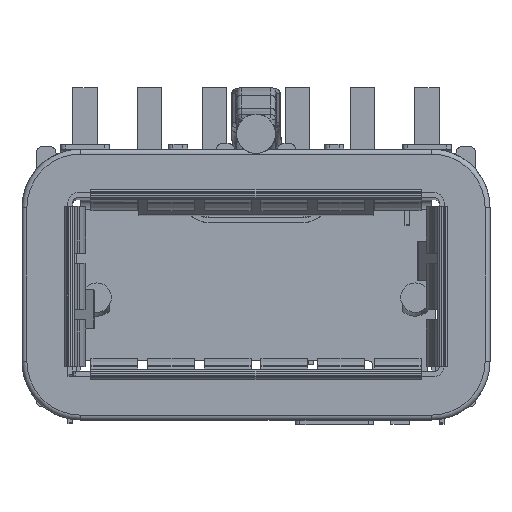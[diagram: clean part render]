
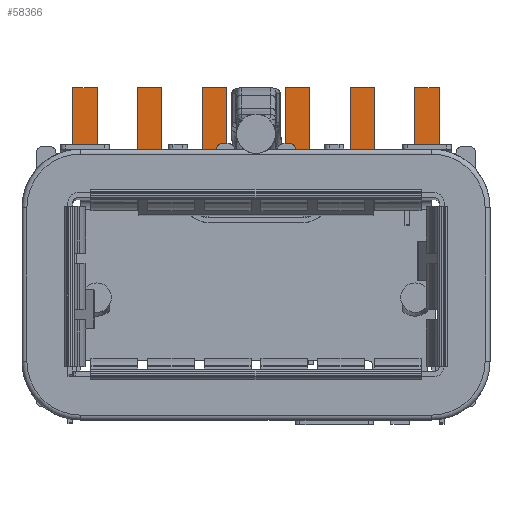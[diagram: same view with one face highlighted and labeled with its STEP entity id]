
A CAD part, top view. The second image highlights one B-rep face of the part: STEP entity #58366.
In plain terms, the highlighted planar face has unit normal (0, 0, 1).
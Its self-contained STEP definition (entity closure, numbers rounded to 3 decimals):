
#11865=DIRECTION('',(0.,-1.,0.));
#11866=VECTOR('',#11865,3.9);
#11867=CARTESIAN_POINT('',(-9.375,10.1,-9.545));
#11868=LINE('',#11867,#11866);
#11893=DIRECTION('',(0.,-1.,0.));
#11894=VECTOR('',#11893,3.9);
#11895=CARTESIAN_POINT('',(9.375,10.1,-9.545));
#11896=LINE('',#11895,#11894);
#12169=DIRECTION('',(1.,0.,0.));
#12170=VECTOR('',#12169,18.75);
#12171=CARTESIAN_POINT('',(-9.375,6.2,-9.545));
#12172=LINE('',#12171,#12170);
#12173=DIRECTION('',(0.,-1.,0.));
#12174=VECTOR('',#12173,3.6);
#12175=CARTESIAN_POINT('',(-8.125,10.1,-9.545));
#12176=LINE('',#12175,#12174);
#12177=DIRECTION('',(1.,0.,0.));
#12178=VECTOR('',#12177,2.063);
#12179=CARTESIAN_POINT('',(-8.125,6.5,-9.545));
#12180=LINE('',#12179,#12178);
#12181=DIRECTION('',(0.,-1.,0.));
#12182=VECTOR('',#12181,3.6);
#12183=CARTESIAN_POINT('',(-6.063,10.1,-9.545));
#12184=LINE('',#12183,#12182);
#12185=DIRECTION('',(1.,0.,0.));
#12186=VECTOR('',#12185,1.25);
#12187=CARTESIAN_POINT('',(-6.063,10.1,-9.545));
#12188=LINE('',#12187,#12186);
#12189=DIRECTION('',(0.,-1.,0.));
#12190=VECTOR('',#12189,3.6);
#12191=CARTESIAN_POINT('',(-4.813,10.1,-9.545));
#12192=LINE('',#12191,#12190);
#12193=DIRECTION('',(1.,0.,0.));
#12194=VECTOR('',#12193,2.063);
#12195=CARTESIAN_POINT('',(-4.813,6.5,-9.545));
#12196=LINE('',#12195,#12194);
#12197=DIRECTION('',(0.,-1.,0.));
#12198=VECTOR('',#12197,3.6);
#12199=CARTESIAN_POINT('',(-2.75,10.1,-9.545));
#12200=LINE('',#12199,#12198);
#12201=DIRECTION('',(1.,0.,0.));
#12202=VECTOR('',#12201,1.25);
#12203=CARTESIAN_POINT('',(-2.75,10.1,-9.545));
#12204=LINE('',#12203,#12202);
#12205=DIRECTION('',(0.,-1.,0.));
#12206=VECTOR('',#12205,3.6);
#12207=CARTESIAN_POINT('',(-1.5,10.1,-9.545));
#12208=LINE('',#12207,#12206);
#12209=DIRECTION('',(1.,0.,0.));
#12210=VECTOR('',#12209,3.);
#12211=CARTESIAN_POINT('',(-1.5,6.5,-9.545));
#12212=LINE('',#12211,#12210);
#12213=DIRECTION('',(0.,-1.,0.));
#12214=VECTOR('',#12213,3.6);
#12215=CARTESIAN_POINT('',(1.5,10.1,-9.545));
#12216=LINE('',#12215,#12214);
#12217=DIRECTION('',(1.,0.,0.));
#12218=VECTOR('',#12217,1.25);
#12219=CARTESIAN_POINT('',(1.5,10.1,-9.545));
#12220=LINE('',#12219,#12218);
#12221=DIRECTION('',(0.,-1.,0.));
#12222=VECTOR('',#12221,3.6);
#12223=CARTESIAN_POINT('',(2.75,10.1,-9.545));
#12224=LINE('',#12223,#12222);
#12225=DIRECTION('',(1.,0.,0.));
#12226=VECTOR('',#12225,2.063);
#12227=CARTESIAN_POINT('',(2.75,6.5,-9.545));
#12228=LINE('',#12227,#12226);
#12229=DIRECTION('',(0.,-1.,0.));
#12230=VECTOR('',#12229,3.6);
#12231=CARTESIAN_POINT('',(4.813,10.1,-9.545));
#12232=LINE('',#12231,#12230);
#12233=DIRECTION('',(1.,0.,0.));
#12234=VECTOR('',#12233,1.25);
#12235=CARTESIAN_POINT('',(4.813,10.1,-9.545));
#12236=LINE('',#12235,#12234);
#12237=DIRECTION('',(0.,-1.,0.));
#12238=VECTOR('',#12237,3.6);
#12239=CARTESIAN_POINT('',(6.063,10.1,-9.545));
#12240=LINE('',#12239,#12238);
#12241=DIRECTION('',(1.,0.,0.));
#12242=VECTOR('',#12241,2.063);
#12243=CARTESIAN_POINT('',(6.063,6.5,-9.545));
#12244=LINE('',#12243,#12242);
#12245=DIRECTION('',(0.,-1.,0.));
#12246=VECTOR('',#12245,3.6);
#12247=CARTESIAN_POINT('',(8.125,10.1,-9.545));
#12248=LINE('',#12247,#12246);
#12249=DIRECTION('',(1.,0.,0.));
#12250=VECTOR('',#12249,1.25);
#12251=CARTESIAN_POINT('',(8.125,10.1,-9.545));
#12252=LINE('',#12251,#12250);
#12253=DIRECTION('',(1.,0.,0.));
#12254=VECTOR('',#12253,1.25);
#12255=CARTESIAN_POINT('',(-9.375,10.1,-9.545));
#12256=LINE('',#12255,#12254);
#37461=CARTESIAN_POINT('',(-9.375,10.1,-9.545));
#37462=VERTEX_POINT('',#37461);
#37463=CARTESIAN_POINT('',(-9.375,6.2,-9.545));
#37464=VERTEX_POINT('',#37463);
#37605=CARTESIAN_POINT('',(9.375,10.1,-9.545));
#37606=VERTEX_POINT('',#37605);
#37607=CARTESIAN_POINT('',(9.375,6.2,-9.545));
#37608=VERTEX_POINT('',#37607);
#42024=CARTESIAN_POINT('',(-8.125,10.1,-9.545));
#42025=VERTEX_POINT('',#42024);
#42026=CARTESIAN_POINT('',(-6.063,10.1,-9.545));
#42027=VERTEX_POINT('',#42026);
#42028=CARTESIAN_POINT('',(-8.125,6.5,-9.545));
#42029=VERTEX_POINT('',#42028);
#42030=CARTESIAN_POINT('',(-6.063,6.5,-9.545));
#42031=VERTEX_POINT('',#42030);
#42090=CARTESIAN_POINT('',(-4.813,10.1,-9.545));
#42091=VERTEX_POINT('',#42090);
#42930=CARTESIAN_POINT('',(-2.75,10.1,-9.545));
#42931=VERTEX_POINT('',#42930);
#42932=CARTESIAN_POINT('',(1.5,10.1,-9.545));
#42933=VERTEX_POINT('',#42932);
#42934=CARTESIAN_POINT('',(-1.5,10.1,-9.545));
#42935=VERTEX_POINT('',#42934);
#42936=CARTESIAN_POINT('',(6.063,10.1,-9.545));
#42937=VERTEX_POINT('',#42936);
#42938=CARTESIAN_POINT('',(8.125,10.1,-9.545));
#42939=VERTEX_POINT('',#42938);
#42940=CARTESIAN_POINT('',(2.75,10.1,-9.545));
#42941=VERTEX_POINT('',#42940);
#42942=CARTESIAN_POINT('',(4.813,10.1,-9.545));
#42943=VERTEX_POINT('',#42942);
#42944=CARTESIAN_POINT('',(-4.813,6.5,-9.545));
#42945=VERTEX_POINT('',#42944);
#42946=CARTESIAN_POINT('',(-2.75,6.5,-9.545));
#42947=VERTEX_POINT('',#42946);
#42948=CARTESIAN_POINT('',(1.5,6.5,-9.545));
#42949=VERTEX_POINT('',#42948);
#42950=CARTESIAN_POINT('',(-1.5,6.5,-9.545));
#42951=VERTEX_POINT('',#42950);
#42952=CARTESIAN_POINT('',(6.063,6.5,-9.545));
#42953=VERTEX_POINT('',#42952);
#42954=CARTESIAN_POINT('',(8.125,6.5,-9.545));
#42955=VERTEX_POINT('',#42954);
#42956=CARTESIAN_POINT('',(2.75,6.5,-9.545));
#42957=VERTEX_POINT('',#42956);
#42958=CARTESIAN_POINT('',(4.813,6.5,-9.545));
#42959=VERTEX_POINT('',#42958);
#58314=CARTESIAN_POINT('',(-9.375,10.1,-9.545));
#58315=DIRECTION('',(0.,0.,1.));
#58316=DIRECTION('',(0.,-1.,0.));
#58317=AXIS2_PLACEMENT_3D('',#58314,#58315,#58316);
#58318=PLANE('',#58317);
#58320=ORIENTED_EDGE('',*,*,#58319,.T.);
#58322=ORIENTED_EDGE('',*,*,#58321,.T.);
#58324=ORIENTED_EDGE('',*,*,#58323,.F.);
#58326=ORIENTED_EDGE('',*,*,#58325,.T.);
#58328=ORIENTED_EDGE('',*,*,#58327,.T.);
#58330=ORIENTED_EDGE('',*,*,#58329,.T.);
#58332=ORIENTED_EDGE('',*,*,#58331,.F.);
#58334=ORIENTED_EDGE('',*,*,#58333,.T.);
#58336=ORIENTED_EDGE('',*,*,#58335,.T.);
#58338=ORIENTED_EDGE('',*,*,#58337,.T.);
#58340=ORIENTED_EDGE('',*,*,#58339,.F.);
#58342=ORIENTED_EDGE('',*,*,#58341,.T.);
#58344=ORIENTED_EDGE('',*,*,#58343,.T.);
#58346=ORIENTED_EDGE('',*,*,#58345,.T.);
#58348=ORIENTED_EDGE('',*,*,#58347,.F.);
#58350=ORIENTED_EDGE('',*,*,#58349,.T.);
#58352=ORIENTED_EDGE('',*,*,#58351,.T.);
#58354=ORIENTED_EDGE('',*,*,#58353,.T.);
#58356=ORIENTED_EDGE('',*,*,#58355,.F.);
#58358=ORIENTED_EDGE('',*,*,#58357,.T.);
#58359=ORIENTED_EDGE('',*,*,#58161,.T.);
#58360=ORIENTED_EDGE('',*,*,#58307,.F.);
#58361=ORIENTED_EDGE('',*,*,#58130,.F.);
#58363=ORIENTED_EDGE('',*,*,#58362,.T.);
#58364=EDGE_LOOP('',(#58320,#58322,#58324,#58326,#58328,#58330,#58332,#58334,
#58336,#58338,#58340,#58342,#58344,#58346,#58348,#58350,#58352,#58354,#58356,
#58358,#58359,#58360,#58361,#58363));
#58365=FACE_OUTER_BOUND('',#58364,.F.);
#58130=EDGE_CURVE('',#37462,#37464,#11868,.T.);
#58161=EDGE_CURVE('',#37606,#37608,#11896,.T.);
#58307=EDGE_CURVE('',#37464,#37608,#12172,.T.);
#58319=EDGE_CURVE('',#42025,#42029,#12176,.T.);
#58321=EDGE_CURVE('',#42029,#42031,#12180,.T.);
#58323=EDGE_CURVE('',#42027,#42031,#12184,.T.);
#58325=EDGE_CURVE('',#42027,#42091,#12188,.T.);
#58327=EDGE_CURVE('',#42091,#42945,#12192,.T.);
#58329=EDGE_CURVE('',#42945,#42947,#12196,.T.);
#58331=EDGE_CURVE('',#42931,#42947,#12200,.T.);
#58333=EDGE_CURVE('',#42931,#42935,#12204,.T.);
#58335=EDGE_CURVE('',#42935,#42951,#12208,.T.);
#58337=EDGE_CURVE('',#42951,#42949,#12212,.T.);
#58339=EDGE_CURVE('',#42933,#42949,#12216,.T.);
#58341=EDGE_CURVE('',#42933,#42941,#12220,.T.);
#58343=EDGE_CURVE('',#42941,#42957,#12224,.T.);
#58345=EDGE_CURVE('',#42957,#42959,#12228,.T.);
#58347=EDGE_CURVE('',#42943,#42959,#12232,.T.);
#58349=EDGE_CURVE('',#42943,#42937,#12236,.T.);
#58351=EDGE_CURVE('',#42937,#42953,#12240,.T.);
#58353=EDGE_CURVE('',#42953,#42955,#12244,.T.);
#58355=EDGE_CURVE('',#42939,#42955,#12248,.T.);
#58357=EDGE_CURVE('',#42939,#37606,#12252,.T.);
#58362=EDGE_CURVE('',#37462,#42025,#12256,.T.);
#58366=ADVANCED_FACE('',(#58365),#58318,.T.);
